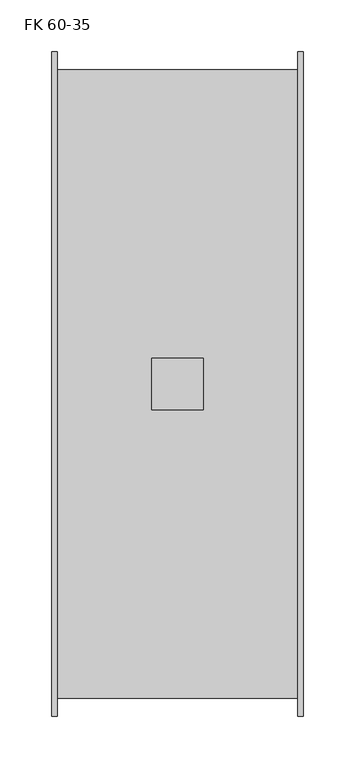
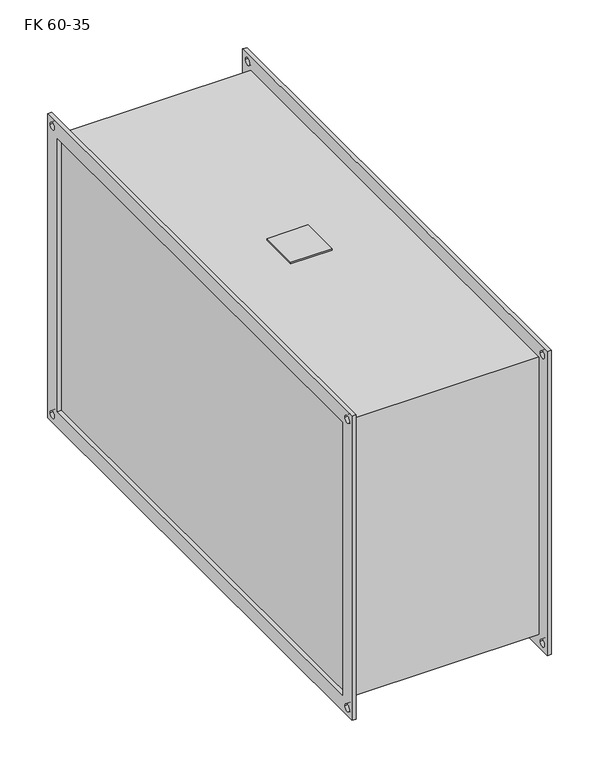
"""IFC4 building model written with IfcOpenShell, lengths in millimetres: damper geometry, KORF_Фильтр_Кассетный_FK : FK 60-35."""

from ifc_helpers import new_model, si_unit, point, frame, frame_2d, origin, place, context, project, spatial, polyline, circle_curve, trimmed, segment, composite_curve, outline, extrude, source, transform, mapped, element, save


def fk_60_35_812c30d3(model_context):
    return source(origin(), model_context, "Body", "SweptSolid", [
        extrude(outline(polyline([(96.0, -25.0), (96.0, 25.0), (146.0, 25.0), (146.0, -25.0), (96.0, -25.0)])), frame((0.0, 0.0, 178.0), z_axis=(0.0, 0.0, 1.0), x_axis=(1.0, 0.0, 0.0)), (0.0, 0.0, 1.0), 2.0),
        extrude(outline(polyline([(-320.0, 195.0), (320.0, 195.0), (320.0, -195.0), (-320.0, -195.0), (-320.0, 195.0)]), holes=[polyline([(-300.0, 175.0), (-300.0, -175.0), (300.0, -175.0), (300.0, 175.0), (-300.0, 175.0)]), composite_curve([segment(trimmed(circle_curve(frame_2d((310.0, 185.0)), 4.5), [point((305.5, 185.0))], [point((314.5, 185.0))], True, "CARTESIAN"), True, "CONTINUOUS"), segment(trimmed(circle_curve(frame_2d((310.0, 185.0)), 4.5), [point((314.5, 185.0))], [point((305.5, 185.0))], True, "CARTESIAN"), True, "CONTINUOUS")], self_intersect=False), composite_curve([segment(trimmed(circle_curve(frame_2d((-310.0, 185.0)), 4.5), [point((-314.5, 185.0))], [point((-305.5, 185.0))], True, "CARTESIAN"), True, "CONTINUOUS"), segment(trimmed(circle_curve(frame_2d((-310.0, 185.0)), 4.5), [point((-305.5, 185.0))], [point((-314.5, 185.0))], True, "CARTESIAN"), True, "CONTINUOUS")], self_intersect=False), composite_curve([segment(trimmed(circle_curve(frame_2d((-310.0, -185.0)), 4.5), [point((-314.5, -185.0))], [point((-305.5, -185.0))], True, "CARTESIAN"), True, "CONTINUOUS"), segment(trimmed(circle_curve(frame_2d((-310.0, -185.0)), 4.5), [point((-305.5, -185.0))], [point((-314.5, -185.0))], True, "CARTESIAN"), True, "CONTINUOUS")], self_intersect=False), composite_curve([segment(trimmed(circle_curve(frame_2d((310.0, -185.0)), 4.5), [point((305.5, -185.0))], [point((314.5, -185.0))], True, "CARTESIAN"), True, "CONTINUOUS"), segment(trimmed(circle_curve(frame_2d((310.0, -185.0)), 4.5), [point((314.5, -185.0))], [point((305.5, -185.0))], True, "CARTESIAN"), True, "CONTINUOUS")], self_intersect=False)]), frame((237.0, 0.0, 0.0), z_axis=(1.0, 0.0, 0.0), x_axis=(0.0, 1.0, 0.0)), (0.0, 0.0, 1.0), 5.0),
        extrude(outline(polyline([(-320.0, 195.0), (320.0, 195.0), (320.0, -195.0), (-320.0, -195.0), (-320.0, 195.0)]), holes=[polyline([(-300.0, 175.0), (-300.0, -175.0), (300.0, -175.0), (300.0, 175.0), (-300.0, 175.0)]), composite_curve([segment(trimmed(circle_curve(frame_2d((310.0, 185.0)), 4.5), [point((305.5, 185.0))], [point((314.5, 185.0))], True, "CARTESIAN"), True, "CONTINUOUS"), segment(trimmed(circle_curve(frame_2d((310.0, 185.0)), 4.5), [point((314.5, 185.0))], [point((305.5, 185.0))], True, "CARTESIAN"), True, "CONTINUOUS")], self_intersect=False), composite_curve([segment(trimmed(circle_curve(frame_2d((-310.0, 185.0)), 4.5), [point((-314.5, 185.0))], [point((-305.5, 185.0))], True, "CARTESIAN"), True, "CONTINUOUS"), segment(trimmed(circle_curve(frame_2d((-310.0, 185.0)), 4.5), [point((-305.5, 185.0))], [point((-314.5, 185.0))], True, "CARTESIAN"), True, "CONTINUOUS")], self_intersect=False), composite_curve([segment(trimmed(circle_curve(frame_2d((-310.0, -185.0)), 4.5), [point((-314.5, -185.0))], [point((-305.5, -185.0))], True, "CARTESIAN"), True, "CONTINUOUS"), segment(trimmed(circle_curve(frame_2d((-310.0, -185.0)), 4.5), [point((-305.5, -185.0))], [point((-314.5, -185.0))], True, "CARTESIAN"), True, "CONTINUOUS")], self_intersect=False), composite_curve([segment(trimmed(circle_curve(frame_2d((310.0, -185.0)), 4.5), [point((305.5, -185.0))], [point((314.5, -185.0))], True, "CARTESIAN"), True, "CONTINUOUS"), segment(trimmed(circle_curve(frame_2d((310.0, -185.0)), 4.5), [point((314.5, -185.0))], [point((305.5, -185.0))], True, "CARTESIAN"), True, "CONTINUOUS")], self_intersect=False)]), frame((0.0, 0.0, 0.0), z_axis=(1.0, 0.0, 0.0), x_axis=(0.0, 1.0, 0.0)), (0.0, 0.0, 1.0), 5.0),
        extrude(outline(polyline([(237.0, 303.0), (237.0, -303.0), (5.0, -303.0), (5.0, 303.0), (237.0, 303.0)])), frame((0.0, 0.0, -178.0), z_axis=(0.0, 0.0, 1.0), x_axis=(1.0, 0.0, 0.0)), (0.0, 0.0, 1.0), 356.0),
    ])


if __name__ == "__main__":
    model = new_model("IFC4")
    model_context = context("Model", 3, world=origin())
    ifc_project = project(units=[si_unit("LENGTHUNIT", "METRE", prefix="MILLI")], contexts=[model_context])
    site = spatial("IfcSite", under=ifc_project)
    building = spatial("IfcBuilding", under=site)
    placement = place(None, origin())
    fk_60_35_shape = fk_60_35_812c30d3(model_context)
    element("IfcDamper", 1, ObjectType="KORF_Фильтр_Кассетный_FK : FK 60-35", at=placement, inside=building, context=model_context, shape_type="MappedRepresentation", body=[
        mapped(fk_60_35_shape, transform((0.0, 0.0, 0.0), x_axis=(1.0, 0.0, 0.0), y_axis=(0.0, 1.0, 0.0), z_axis=(0.0, 0.0, 1.0))),
    ])
    save(model, "model.ifc")
